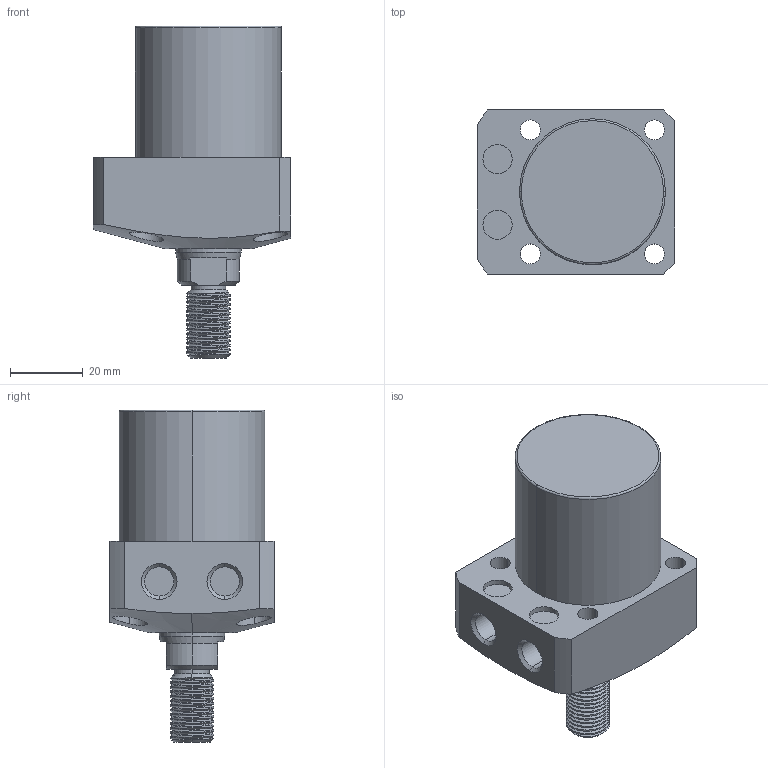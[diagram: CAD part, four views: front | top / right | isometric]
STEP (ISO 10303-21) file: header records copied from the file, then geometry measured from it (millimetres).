
FILE_DESCRIPTION (( 'STEP AP203' ), '1' );
FILE_NAME ('CLL-040CT-025.STEP', '2020-01-08T08:57:55', ( '' ), ( '' ), 'SwSTEP 2.0', 'SolidWorks 2015', '' );
FILE_SCHEMA (( 'CONFIG_CONTROL_DESIGN' ));
Length unit declared in the file: millimetre
Products named in the file (1): CLL-040CT-025
Bounding box: 54 x 45 x 91 mm (x, y, z)
Volume: 99643.4 mm3; surface area: 17292.1 mm2
Topology: 1 solids, 1 shells, 106 faces, 267 edges, 174 vertices
Faces by surface type: cylinder 63, plane 23, cone 16, torus 2, bspline 2
Entity records: 5190 total; most frequent: CARTESIAN_POINT 2708, ORIENTED_EDGE 534, DIRECTION 472, EDGE_CURVE 267, AXIS2_PLACEMENT_3D 189, VERTEX_POINT 174, EDGE_LOOP 125, FACE_OUTER_BOUND 106
